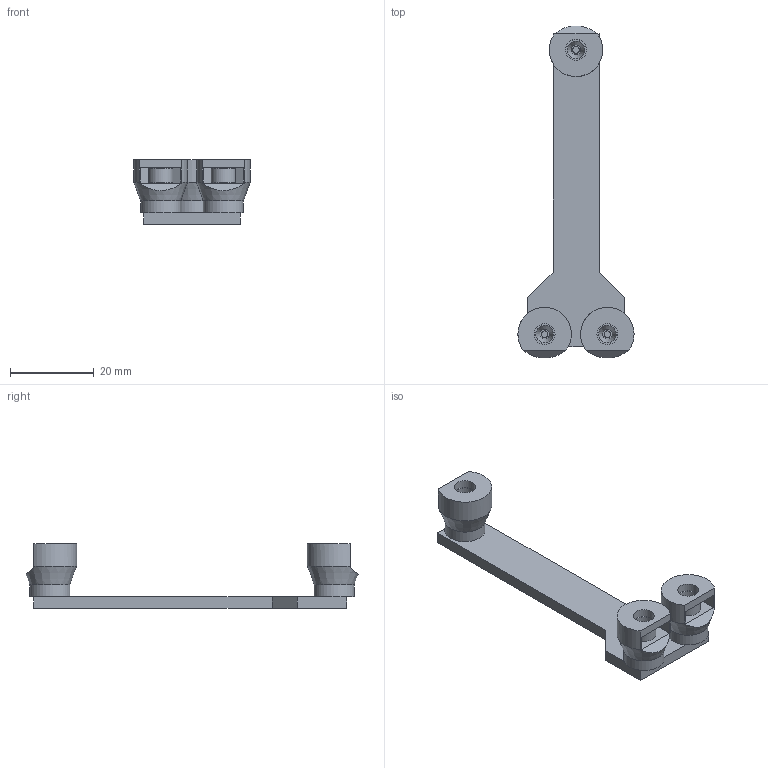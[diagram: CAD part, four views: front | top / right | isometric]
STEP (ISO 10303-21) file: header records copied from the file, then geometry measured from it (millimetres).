
FILE_DESCRIPTION(/* description */ (''),/* implementation_level */ '2;1');
FILE_NAME(/* name */ 'V:\Flow\Inventor\Mischertests\Weaving - 1,6mm doppelt.stp',/* time_stamp */ '2019-12-20T09:50:43+01:00',/* author */ ('JN'),/* organization */ (''),/* preprocessor_version */ 'ST-DEVELOPER v17',/* originating_system */ 'Autodesk Inventor 2018',/* authorisation */ '');
FILE_SCHEMA (('AUTOMOTIVE_DESIGN { 1 0 10303 214 3 1 1 }'));
Length unit declared in the file: millimetre
Products named in the file (3): SAR; Flow Reaktor 16 - Test Mischzonen 2; 10-32 Mutter einschieben
Assembly tree (4 placements, depth 2):
  SAR
    Flow Reaktor 16 - Test Mischzonen 2
    10-32 Mutter einschieben  x3
Bounding box: 27.8 x 79.4 x 15.5 mm (x, y, z)
Volume: 5232.9 mm3; surface area: 6218.6 mm2
Topology: 7 solids, 7 shells, 231 faces, 587 edges, 372 vertices
Faces by surface type: plane 201, cylinder 24, cone 6
Full cylindrical faces by diameter (mm): 1.6 x3, 2.4 x3, 5 x9, 5.8 x3, 9.6 x3
Entity records: 5620 total; most frequent: CARTESIAN_POINT 975, ORIENTED_EDGE 958, DIRECTION 896, EDGE_CURVE 479, LINE 442, VECTOR 442, VERTEX_POINT 300, AXIS2_PLACEMENT_3D 227
